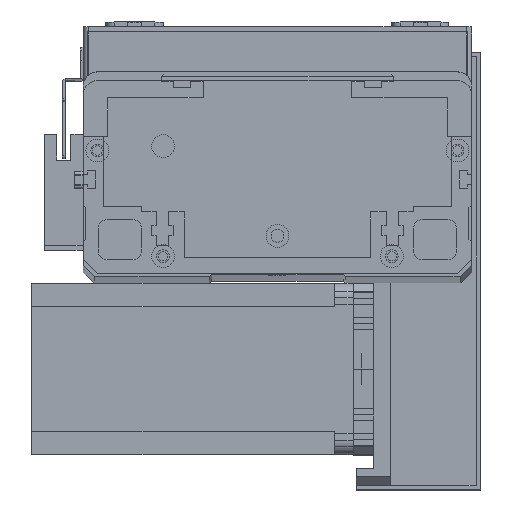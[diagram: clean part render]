
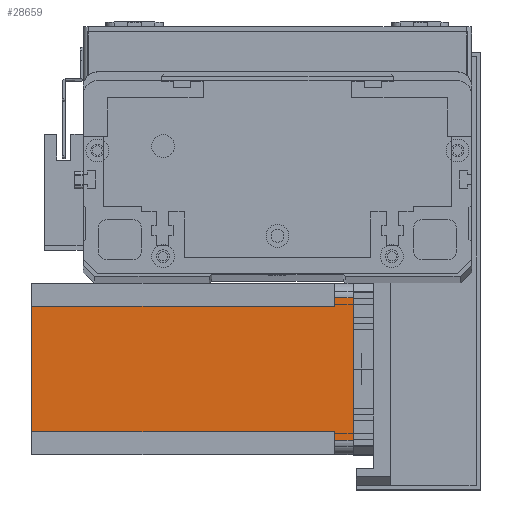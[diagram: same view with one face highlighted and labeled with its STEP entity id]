
A CAD part, top view. The second image highlights one B-rep face of the part: STEP entity #28659.
In plain terms, the highlighted planar face has unit normal (0, 0, 1) as drawn and (0, -1, 0) by its records, which use the part's own axes.
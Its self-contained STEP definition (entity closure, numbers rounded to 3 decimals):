
#412 = LINE ( 'NONE', #13614, #11784 ) ;
#1218 = VERTEX_POINT ( 'NONE', #12716 ) ;
#1487 = EDGE_LOOP ( 'NONE', ( #3689, #12268, #15386, #9202, #5193, #18644, #2773, #23297 ) ) ;
#1508 = CARTESIAN_POINT ( 'NONE',  ( 5., 0., 0. ) ) ;
#2773 = ORIENTED_EDGE ( 'NONE', *, *, #14592, .T. ) ;
#3689 = ORIENTED_EDGE ( 'NONE', *, *, #8247, .T. ) ;
#4044 = CARTESIAN_POINT ( 'NONE',  ( 52., 0., -6.5 ) ) ;
#4932 = LINE ( 'NONE', #23948, #21622 ) ;
#5193 = ORIENTED_EDGE ( 'NONE', *, *, #13763, .F. ) ;
#7089 = EDGE_CURVE ( 'NONE', #28674, #9860, #10999, .T. ) ;
#7528 = EDGE_CURVE ( 'NONE', #28674, #26084, #4932, .T. ) ;
#7974 = CARTESIAN_POINT ( 'NONE',  ( 52., 0., -6.5 ) ) ;
#8247 = EDGE_CURVE ( 'NONE', #26795, #22533, #15934, .T. ) ;
#8566 = CARTESIAN_POINT ( 'NONE',  ( 0., 0., -112.5 ) ) ;
#9202 = ORIENTED_EDGE ( 'NONE', *, *, #7528, .T. ) ;
#9439 = EDGE_CURVE ( 'NONE', #22533, #9860, #20807, .T. ) ;
#9860 = VERTEX_POINT ( 'NONE', #19634 ) ;
#10326 = DIRECTION ( 'NONE',  ( 0., 0., -1. ) ) ;
#10999 = LINE ( 'NONE', #19613, #21651 ) ;
#11445 = LINE ( 'NONE', #16021, #28810 ) ;
#11691 = LINE ( 'NONE', #24164, #25191 ) ;
#11784 = VECTOR ( 'NONE', #15902, 1000. ) ;
#12268 = ORIENTED_EDGE ( 'NONE', *, *, #9439, .T. ) ;
#12716 = CARTESIAN_POINT ( 'NONE',  ( 8., 0., -112.5 ) ) ;
#12821 = DIRECTION ( 'NONE',  ( 0., 0., -1. ) ) ;
#13614 = CARTESIAN_POINT ( 'NONE',  ( 52., 0., -112.5 ) ) ;
#13741 = CARTESIAN_POINT ( 'NONE',  ( 52., 0., -112.5 ) ) ;
#13763 = EDGE_CURVE ( 'NONE', #23223, #26084, #11691, .T. ) ;
#14592 = EDGE_CURVE ( 'NONE', #1218, #24287, #27936, .T. ) ;
#15386 = ORIENTED_EDGE ( 'NONE', *, *, #7089, .F. ) ;
#15902 = DIRECTION ( 'NONE',  ( 0., 0., -1. ) ) ;
#15914 = DIRECTION ( 'NONE',  ( 0., 0., 1. ) ) ;
#15933 = VECTOR ( 'NONE', #22171, 1000. ) ;
#15934 = LINE ( 'NONE', #4044, #27250 ) ;
#16021 = CARTESIAN_POINT ( 'NONE',  ( 8., 0., -112.5 ) ) ;
#16650 = CARTESIAN_POINT ( 'NONE',  ( 8., 0., -6.5 ) ) ;
#17429 = DIRECTION ( 'NONE',  ( -1., 0., 0. ) ) ;
#17459 = CARTESIAN_POINT ( 'NONE',  ( 55., 0., -6.5 ) ) ;
#17671 = DIRECTION ( 'NONE',  ( 1., 0., 0. ) ) ;
#17969 = EDGE_CURVE ( 'NONE', #1218, #23223, #11445, .T. ) ;
#18376 = DIRECTION ( 'NONE',  ( 0., 0., 1. ) ) ;
#18644 = ORIENTED_EDGE ( 'NONE', *, *, #17969, .F. ) ;
#19613 = CARTESIAN_POINT ( 'NONE',  ( 0., 0., 0. ) ) ;
#19634 = CARTESIAN_POINT ( 'NONE',  ( 55., 0., 0. ) ) ;
#20315 = EDGE_CURVE ( 'NONE', #26795, #24287, #412, .T. ) ;
#20385 = FACE_OUTER_BOUND ( 'NONE', #1487, .T. ) ;
#20807 = LINE ( 'NONE', #27194, #25428 ) ;
#21204 = CARTESIAN_POINT ( 'NONE',  ( 5., 0., -6.5 ) ) ;
#21622 = VECTOR ( 'NONE', #10326, 1000. ) ;
#21651 = VECTOR ( 'NONE', #21884, 1000. ) ;
#21844 = PLANE ( 'NONE',  #24140 ) ;
#21884 = DIRECTION ( 'NONE',  ( 1., 0., 0. ) ) ;
#22171 = DIRECTION ( 'NONE',  ( 1., 0., 0. ) ) ;
#22533 = VERTEX_POINT ( 'NONE', #17459 ) ;
#23223 = VERTEX_POINT ( 'NONE', #16650 ) ;
#23297 = ORIENTED_EDGE ( 'NONE', *, *, #20315, .F. ) ;
#23948 = CARTESIAN_POINT ( 'NONE',  ( 5., 0., -112.5 ) ) ;
#24140 = AXIS2_PLACEMENT_3D ( 'NONE', #26304, #26416, #12821 ) ;
#24164 = CARTESIAN_POINT ( 'NONE',  ( 8., 0., -6.5 ) ) ;
#24287 = VERTEX_POINT ( 'NONE', #13741 ) ;
#25191 = VECTOR ( 'NONE', #17429, 1000. ) ;
#25428 = VECTOR ( 'NONE', #15914, 1000. ) ;
#26084 = VERTEX_POINT ( 'NONE', #21204 ) ;
#26304 = CARTESIAN_POINT ( 'NONE',  ( 0., 0., -112.5 ) ) ;
#26416 = DIRECTION ( 'NONE',  ( 0., -1., 0. ) ) ;
#26795 = VERTEX_POINT ( 'NONE', #7974 ) ;
#27194 = CARTESIAN_POINT ( 'NONE',  ( 55., 0., -112.5 ) ) ;
#27250 = VECTOR ( 'NONE', #17671, 1000. ) ;
#27936 = LINE ( 'NONE', #8566, #15933 ) ;
#28659 = ADVANCED_FACE ( 'NONE', ( #20385 ), #21844, .T. ) ;
#28674 = VERTEX_POINT ( 'NONE', #1508 ) ;
#28810 = VECTOR ( 'NONE', #18376, 1000. ) ;
